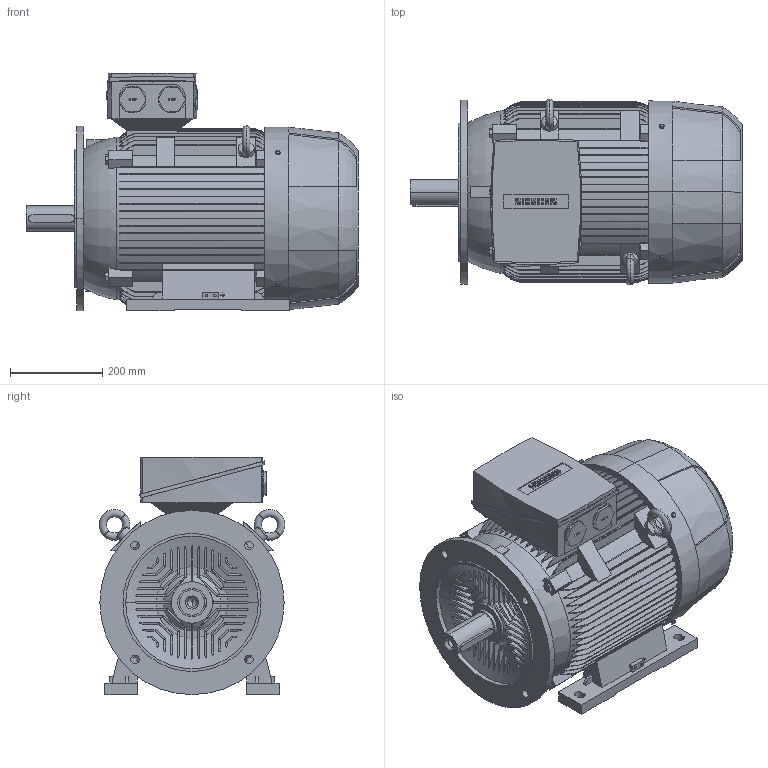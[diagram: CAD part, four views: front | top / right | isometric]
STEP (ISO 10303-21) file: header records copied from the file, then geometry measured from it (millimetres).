
FILE_DESCRIPTION(('STEP AP214'),'1');
FILE_NAME('cctmp_D211793D-2522-4139-8054-DB607B9CCB06_2021_11_16_20_53_20_910..stp','2021-11-16T19:53:21',('SIEMENS A&D'),('CADClick - www.CADClick.com'),'Spatial InterOp 3D',' ','unknown authorization');
FILE_SCHEMA(('AUTOMOTIVE_DESIGN'));
Length unit declared in the file: millimetre
Products named in the file (1): 1
Bounding box: 721 x 403.47 x 515 mm (x, y, z)
Volume: 70527455.8 mm3; surface area: 2151139 mm2
Topology: 1 solids, 1 shells, 1353 faces, 3818 edges, 2484 vertices
Faces by surface type: plane 839, cylinder 328, torus 156, cone 30
Entity records: 66072 total; most frequent: CARTESIAN_POINT 21566, ORIENTED_EDGE 7552, DIRECTION 6442, EDGE_CURVE 3776, VERTEX_POINT 2484, AXIS2_PLACEMENT_3D 2196, LINE 2050, VECTOR 2050
